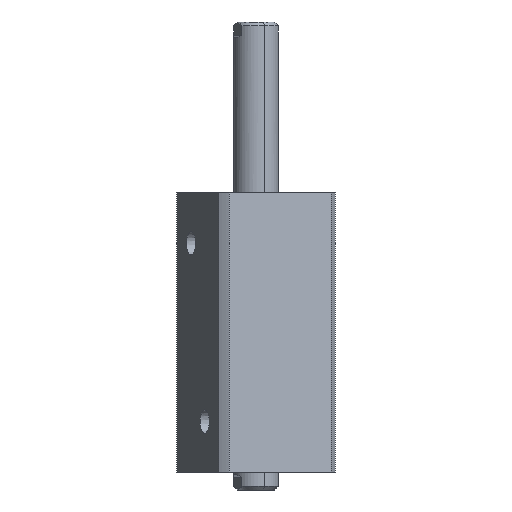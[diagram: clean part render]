
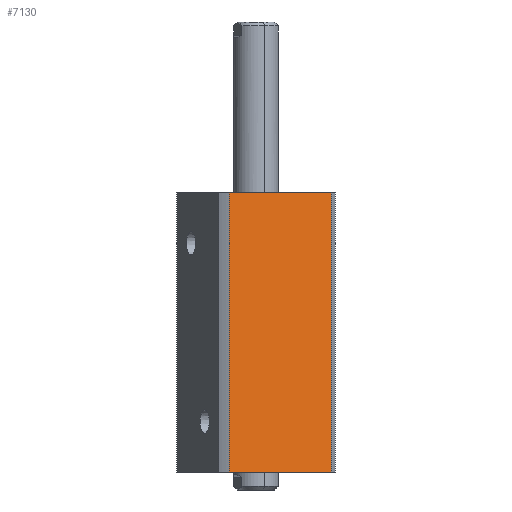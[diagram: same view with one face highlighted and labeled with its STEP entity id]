
A CAD part, front view. The second image highlights one B-rep face of the part: STEP entity #7130.
In plain terms, the highlighted planar face has unit normal (0.383, -0.924, 0) as drawn and (1, 0, 0) by its records, which use the part's own axes.
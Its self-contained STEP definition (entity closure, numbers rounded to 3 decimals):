
#299 = DIRECTION ( 'NONE',  ( 0., 0., 1. ) ) ;
#326 = LINE ( 'NONE', #9868, #8601 ) ;
#351 = LINE ( 'NONE', #3614, #8629 ) ;
#824 = CARTESIAN_POINT ( 'NONE',  ( 35., -30.615, 155. ) ) ;
#993 = CARTESIAN_POINT ( 'NONE',  ( 35., 35., 0. ) ) ;
#1007 = ORIENTED_EDGE ( 'NONE', *, *, #6394, .T. ) ;
#1114 = EDGE_LOOP ( 'NONE', ( #1745, #1007, #1613, #7460 ) ) ;
#1613 = ORIENTED_EDGE ( 'NONE', *, *, #9184, .F. ) ;
#1745 = ORIENTED_EDGE ( 'NONE', *, *, #6593, .F. ) ;
#1948 = CARTESIAN_POINT ( 'NONE',  ( 35., 30.615, 0. ) ) ;
#2664 = CARTESIAN_POINT ( 'NONE',  ( 35., 30.615, 155. ) ) ;
#2731 = VERTEX_POINT ( 'NONE', #4696 ) ;
#2734 = CARTESIAN_POINT ( 'NONE',  ( 35., 35., 155. ) ) ;
#2953 = LINE ( 'NONE', #993, #5092 ) ;
#2995 = VERTEX_POINT ( 'NONE', #1948 ) ;
#3614 = CARTESIAN_POINT ( 'NONE',  ( 35., 35., 155. ) ) ;
#3971 = VECTOR ( 'NONE', #5124, 1000. ) ;
#4320 = CARTESIAN_POINT ( 'NONE',  ( 35., 30.615, -145. ) ) ;
#4348 = PLANE ( 'NONE',  #6500 ) ;
#4426 = DIRECTION ( 'NONE',  ( 0., 1., 0. ) ) ;
#4696 = CARTESIAN_POINT ( 'NONE',  ( 35., -30.615, 0. ) ) ;
#4717 = LINE ( 'NONE', #4320, #3971 ) ;
#5092 = VECTOR ( 'NONE', #6581, 1000. ) ;
#5124 = DIRECTION ( 'NONE',  ( 0., 0., -1. ) ) ;
#5151 = DIRECTION ( 'NONE',  ( 0., -1., 0. ) ) ;
#5628 = VERTEX_POINT ( 'NONE', #824 ) ;
#6394 = EDGE_CURVE ( 'NONE', #2731, #2995, #2953, .T. ) ;
#6500 = AXIS2_PLACEMENT_3D ( 'NONE', #2734, #9964, #5151 ) ;
#6581 = DIRECTION ( 'NONE',  ( 0., 1., 0. ) ) ;
#6593 = EDGE_CURVE ( 'NONE', #2731, #5628, #326, .T. ) ;
#7025 = VERTEX_POINT ( 'NONE', #2664 ) ;
#7130 = ADVANCED_FACE ( 'NONE', ( #9858 ), #4348, .F. ) ;
#7460 = ORIENTED_EDGE ( 'NONE', *, *, #10057, .F. ) ;
#8601 = VECTOR ( 'NONE', #299, 1000. ) ;
#8629 = VECTOR ( 'NONE', #4426, 1000. ) ;
#9184 = EDGE_CURVE ( 'NONE', #7025, #2995, #4717, .T. ) ;
#9858 = FACE_OUTER_BOUND ( 'NONE', #1114, .T. ) ;
#9868 = CARTESIAN_POINT ( 'NONE',  ( 35., -30.615, -145. ) ) ;
#9964 = DIRECTION ( 'NONE',  ( -1., 0., 0. ) ) ;
#10057 = EDGE_CURVE ( 'NONE', #5628, #7025, #351, .T. ) ;
